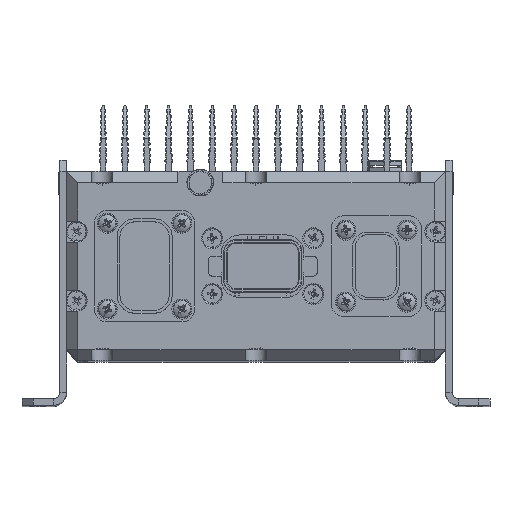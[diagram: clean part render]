
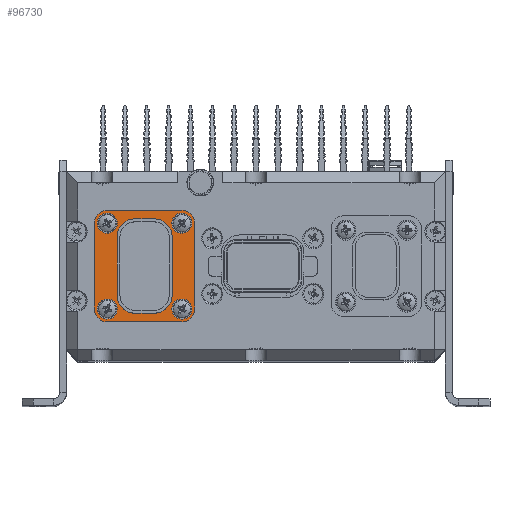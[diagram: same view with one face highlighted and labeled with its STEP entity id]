
A CAD part, top view. The second image highlights one B-rep face of the part: STEP entity #96730.
In plain terms, the highlighted planar face has unit normal (0, 0, 1).
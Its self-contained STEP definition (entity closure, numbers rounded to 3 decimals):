
#29 = CARTESIAN_POINT ( 'NONE',  ( -163.25, -7.2, 325. ) ) ;
#512 = VERTEX_POINT ( 'NONE', #57385 ) ;
#881 = CARTESIAN_POINT ( 'NONE',  ( -175.65, -11.05, 325. ) ) ;
#3469 = VECTOR ( 'NONE', #60138, 1000. ) ;
#4567 = CARTESIAN_POINT ( 'NONE',  ( -175.65, -11.05, 325. ) ) ;
#7434 = DIRECTION ( 'NONE',  ( 0., -1., 0. ) ) ;
#7844 = ORIENTED_EDGE ( 'NONE', *, *, #19885, .T. ) ;
#8864 = DIRECTION ( 'NONE',  ( 0., 1., 0. ) ) ;
#9308 = ORIENTED_EDGE ( 'NONE', *, *, #143611, .F. ) ;
#10892 = EDGE_CURVE ( 'NONE', #76924, #109224, #186458, .T. ) ;
#11812 = CARTESIAN_POINT ( 'NONE',  ( -163.25, -51.45, 325. ) ) ;
#12763 = ORIENTED_EDGE ( 'NONE', *, *, #125728, .F. ) ;
#12958 = VERTEX_POINT ( 'NONE', #49302 ) ;
#13033 = VECTOR ( 'NONE', #151526, 1000. ) ;
#13914 = EDGE_CURVE ( 'NONE', #109224, #102692, #29088, .T. ) ;
#13955 = ORIENTED_EDGE ( 'NONE', *, *, #53110, .T. ) ;
#14120 = LINE ( 'NONE', #180184, #13033 ) ;
#14484 = ORIENTED_EDGE ( 'NONE', *, *, #155381, .F. ) ;
#15521 = DIRECTION ( 'NONE',  ( 0., 1., 0. ) ) ;
#16910 = CIRCLE ( 'NONE', #39252, 8. ) ;
#17535 = VERTEX_POINT ( 'NONE', #188935 ) ;
#19247 = ORIENTED_EDGE ( 'NONE', *, *, #69671, .T. ) ;
#19885 = EDGE_CURVE ( 'NONE', #87326, #67952, #76266, .T. ) ;
#20239 = CARTESIAN_POINT ( 'NONE',  ( -192.35, -45.35, 325. ) ) ;
#20594 = VERTEX_POINT ( 'NONE', #101619 ) ;
#20884 = DIRECTION ( 'NONE',  ( 1., 0., 0. ) ) ;
#21209 = PLANE ( 'NONE',  #113372 ) ;
#22749 = ORIENTED_EDGE ( 'NONE', *, *, #10892, .T. ) ;
#22880 = DIRECTION ( 'NONE',  ( 0., 0., 1. ) ) ;
#23439 = CARTESIAN_POINT ( 'NONE',  ( -184.35, -53.35, 325. ) ) ;
#25336 = CARTESIAN_POINT ( 'NONE',  ( -184.35, -19.05, 325. ) ) ;
#28830 = CARTESIAN_POINT ( 'NONE',  ( -157.5, -12.95, 325. ) ) ;
#29084 = AXIS2_PLACEMENT_3D ( 'NONE', #161041, #53354, #8864 ) ;
#29088 = CIRCLE ( 'NONE', #54338, 5.75 ) ;
#30482 = CIRCLE ( 'NONE', #93450, 8. ) ;
#32586 = EDGE_CURVE ( 'NONE', #76578, #76924, #173983, .T. ) ;
#34132 = CARTESIAN_POINT ( 'NONE',  ( -196.75, -7.2, 325. ) ) ;
#36210 = DIRECTION ( 'NONE',  ( -1., 0., 0. ) ) ;
#38594 = DIRECTION ( 'NONE',  ( 0., 1., 0. ) ) ;
#38748 = CARTESIAN_POINT ( 'NONE',  ( -175.65, -19.05, 325. ) ) ;
#39252 = AXIS2_PLACEMENT_3D ( 'NONE', #74596, #134943, #59786 ) ;
#40959 = VERTEX_POINT ( 'NONE', #129463 ) ;
#40984 = EDGE_LOOP ( 'NONE', ( #12763, #14484, #67264, #175705, #9308, #192905, #70325, #42318 ) ) ;
#42318 = ORIENTED_EDGE ( 'NONE', *, *, #194212, .F. ) ;
#44382 = LINE ( 'NONE', #881, #3469 ) ;
#49302 = CARTESIAN_POINT ( 'NONE',  ( -184.35, -11.05, 325. ) ) ;
#49481 = VERTEX_POINT ( 'NONE', #4567 ) ;
#50864 = FACE_OUTER_BOUND ( 'NONE', #132720, .T. ) ;
#51177 = CARTESIAN_POINT ( 'NONE',  ( -202.5, -12.95, 325. ) ) ;
#51685 = LINE ( 'NONE', #169395, #191313 ) ;
#51924 = VERTEX_POINT ( 'NONE', #122344 ) ;
#53110 = EDGE_CURVE ( 'NONE', #102692, #165648, #54836, .T. ) ;
#53354 = DIRECTION ( 'NONE',  ( 0., 0., 1. ) ) ;
#54338 = AXIS2_PLACEMENT_3D ( 'NONE', #195059, #106949, #91101 ) ;
#54786 = DIRECTION ( 'NONE',  ( 0., 0., 1. ) ) ;
#54836 = LINE ( 'NONE', #160596, #144769 ) ;
#57385 = CARTESIAN_POINT ( 'NONE',  ( -175.65, -53.35, 325. ) ) ;
#58953 = AXIS2_PLACEMENT_3D ( 'NONE', #11812, #153170, #77905 ) ;
#59786 = DIRECTION ( 'NONE',  ( 0., 1., 0. ) ) ;
#60138 = DIRECTION ( 'NONE',  ( -1., 0., 0. ) ) ;
#62177 = AXIS2_PLACEMENT_3D ( 'NONE', #25336, #99404, #83613 ) ;
#63890 = CIRCLE ( 'NONE', #29084, 8. ) ;
#67167 = DIRECTION ( 'NONE',  ( 0., 0., 1. ) ) ;
#67264 = ORIENTED_EDGE ( 'NONE', *, *, #129392, .F. ) ;
#67952 = VERTEX_POINT ( 'NONE', #87987 ) ;
#69671 = EDGE_CURVE ( 'NONE', #51924, #76578, #51685, .T. ) ;
#70325 = ORIENTED_EDGE ( 'NONE', *, *, #135663, .F. ) ;
#74596 = CARTESIAN_POINT ( 'NONE',  ( -184.35, -45.35, 325. ) ) ;
#76266 = LINE ( 'NONE', #167280, #96111 ) ;
#76578 = VERTEX_POINT ( 'NONE', #28830 ) ;
#76924 = VERTEX_POINT ( 'NONE', #29 ) ;
#77905 = DIRECTION ( 'NONE',  ( 0., 1., 0. ) ) ;
#83613 = DIRECTION ( 'NONE',  ( 0., 1., 0. ) ) ;
#85034 = DIRECTION ( 'NONE',  ( 0., 1., 0. ) ) ;
#86961 = DIRECTION ( 'NONE',  ( 0., 1., 0. ) ) ;
#87326 = VERTEX_POINT ( 'NONE', #143786 ) ;
#87987 = CARTESIAN_POINT ( 'NONE',  ( -163.25, -57.2, 325. ) ) ;
#88625 = AXIS2_PLACEMENT_3D ( 'NONE', #187836, #67167, #38594 ) ;
#89551 = CARTESIAN_POINT ( 'NONE',  ( -196.75, -51.45, 325. ) ) ;
#89939 = LINE ( 'NONE', #194863, #156175 ) ;
#91101 = DIRECTION ( 'NONE',  ( 0., 1., 0. ) ) ;
#93450 = AXIS2_PLACEMENT_3D ( 'NONE', #38748, #22880, #85034 ) ;
#96111 = VECTOR ( 'NONE', #20884, 1000. ) ;
#96730 = ADVANCED_FACE ( 'NONE', ( #50864, #125019 ), #21209, .T. ) ;
#98508 = LINE ( 'NONE', #23439, #122280 ) ;
#99404 = DIRECTION ( 'NONE',  ( 0., 0., 1. ) ) ;
#101619 = CARTESIAN_POINT ( 'NONE',  ( -192.35, -19.05, 325. ) ) ;
#102692 = VERTEX_POINT ( 'NONE', #51177 ) ;
#106949 = DIRECTION ( 'NONE',  ( 0., 0., 1. ) ) ;
#109010 = DIRECTION ( 'NONE',  ( 0., 1., 0. ) ) ;
#109224 = VERTEX_POINT ( 'NONE', #34132 ) ;
#110313 = ORIENTED_EDGE ( 'NONE', *, *, #190334, .T. ) ;
#113372 = AXIS2_PLACEMENT_3D ( 'NONE', #160534, #54786, #173407 ) ;
#116361 = CARTESIAN_POINT ( 'NONE',  ( -167.65, -19.05, 325. ) ) ;
#122280 = VECTOR ( 'NONE', #189533, 1000. ) ;
#122344 = CARTESIAN_POINT ( 'NONE',  ( -157.5, -51.45, 325. ) ) ;
#125019 = FACE_BOUND ( 'NONE', #40984, .T. ) ;
#125728 = EDGE_CURVE ( 'NONE', #40959, #512, #98508, .T. ) ;
#127255 = VECTOR ( 'NONE', #36210, 1000. ) ;
#128415 = AXIS2_PLACEMENT_3D ( 'NONE', #89551, #193523, #15521 ) ;
#129392 = EDGE_CURVE ( 'NONE', #20594, #140886, #14120, .T. ) ;
#129463 = CARTESIAN_POINT ( 'NONE',  ( -184.35, -53.35, 325. ) ) ;
#132720 = EDGE_LOOP ( 'NONE', ( #187765, #19247, #133588, #22749, #176591, #13955, #110313, #7844 ) ) ;
#133588 = ORIENTED_EDGE ( 'NONE', *, *, #32586, .T. ) ;
#134943 = DIRECTION ( 'NONE',  ( 0., 0., 1. ) ) ;
#135663 = EDGE_CURVE ( 'NONE', #17535, #162681, #89939, .T. ) ;
#140730 = EDGE_CURVE ( 'NONE', #12958, #20594, #147419, .T. ) ;
#140886 = VERTEX_POINT ( 'NONE', #20239 ) ;
#143611 = EDGE_CURVE ( 'NONE', #49481, #12958, #44382, .T. ) ;
#143786 = CARTESIAN_POINT ( 'NONE',  ( -196.75, -57.2, 325. ) ) ;
#144262 = CIRCLE ( 'NONE', #128415, 5.75 ) ;
#144769 = VECTOR ( 'NONE', #7434, 1000. ) ;
#147294 = CIRCLE ( 'NONE', #58953, 5.75 ) ;
#147419 = CIRCLE ( 'NONE', #62177, 8. ) ;
#151526 = DIRECTION ( 'NONE',  ( 0., -1., 0. ) ) ;
#153006 = CARTESIAN_POINT ( 'NONE',  ( -163.25, -7.2, 325. ) ) ;
#153170 = DIRECTION ( 'NONE',  ( 0., 0., 1. ) ) ;
#155381 = EDGE_CURVE ( 'NONE', #140886, #40959, #16910, .T. ) ;
#156175 = VECTOR ( 'NONE', #86961, 1000. ) ;
#160534 = CARTESIAN_POINT ( 'NONE',  ( -163.25, -51.45, 325. ) ) ;
#160596 = CARTESIAN_POINT ( 'NONE',  ( -202.5, -12.95, 325. ) ) ;
#161041 = CARTESIAN_POINT ( 'NONE',  ( -175.65, -45.35, 325. ) ) ;
#162398 = CARTESIAN_POINT ( 'NONE',  ( -202.5, -51.45, 325. ) ) ;
#162681 = VERTEX_POINT ( 'NONE', #116361 ) ;
#165648 = VERTEX_POINT ( 'NONE', #162398 ) ;
#167280 = CARTESIAN_POINT ( 'NONE',  ( -196.75, -57.2, 325. ) ) ;
#169395 = CARTESIAN_POINT ( 'NONE',  ( -157.5, -51.45, 325. ) ) ;
#173247 = EDGE_CURVE ( 'NONE', #67952, #51924, #147294, .T. ) ;
#173407 = DIRECTION ( 'NONE',  ( 0., 1., 0. ) ) ;
#173983 = CIRCLE ( 'NONE', #88625, 5.75 ) ;
#175705 = ORIENTED_EDGE ( 'NONE', *, *, #140730, .F. ) ;
#176591 = ORIENTED_EDGE ( 'NONE', *, *, #13914, .T. ) ;
#180184 = CARTESIAN_POINT ( 'NONE',  ( -192.35, -19.05, 325. ) ) ;
#186458 = LINE ( 'NONE', #153006, #127255 ) ;
#187765 = ORIENTED_EDGE ( 'NONE', *, *, #173247, .T. ) ;
#187836 = CARTESIAN_POINT ( 'NONE',  ( -163.25, -12.95, 325. ) ) ;
#188935 = CARTESIAN_POINT ( 'NONE',  ( -167.65, -45.35, 325. ) ) ;
#189533 = DIRECTION ( 'NONE',  ( 1., 0., 0. ) ) ;
#190334 = EDGE_CURVE ( 'NONE', #165648, #87326, #144262, .T. ) ;
#191313 = VECTOR ( 'NONE', #109010, 1000. ) ;
#192905 = ORIENTED_EDGE ( 'NONE', *, *, #195199, .F. ) ;
#193523 = DIRECTION ( 'NONE',  ( 0., 0., 1. ) ) ;
#194212 = EDGE_CURVE ( 'NONE', #512, #17535, #63890, .T. ) ;
#194863 = CARTESIAN_POINT ( 'NONE',  ( -167.65, -45.35, 325. ) ) ;
#195059 = CARTESIAN_POINT ( 'NONE',  ( -196.75, -12.95, 325. ) ) ;
#195199 = EDGE_CURVE ( 'NONE', #162681, #49481, #30482, .T. ) ;
